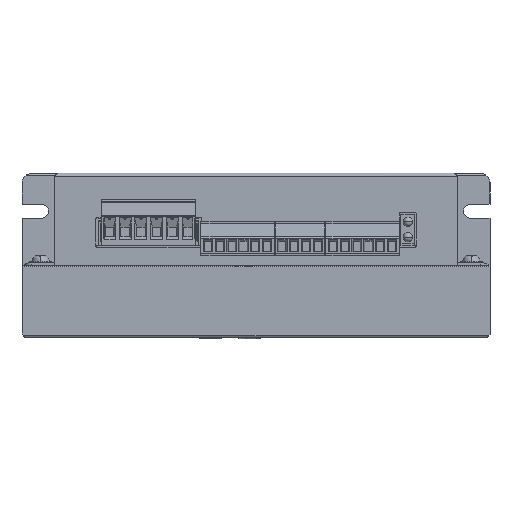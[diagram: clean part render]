
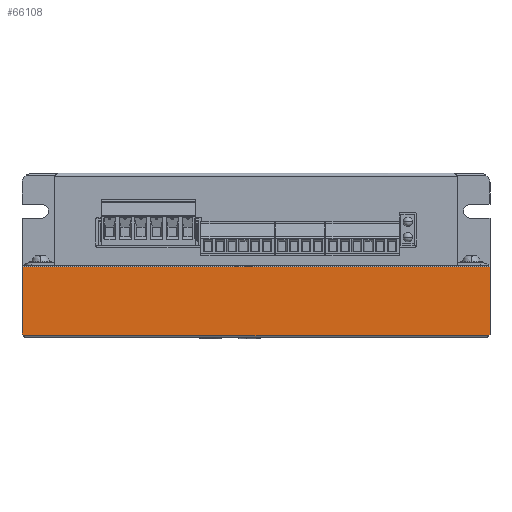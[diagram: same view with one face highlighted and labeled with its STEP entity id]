
A CAD part, top view. The second image highlights one B-rep face of the part: STEP entity #66108.
In plain terms, the highlighted planar face has unit normal (0, 0, 1).
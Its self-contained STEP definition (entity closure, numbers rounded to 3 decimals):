
#15731=DIRECTION('',(-1.,0.,0.));
#15732=VECTOR('',#15731,151.2);
#15733=CARTESIAN_POINT('',(75.6,-0.3,89.3));
#15734=LINE('',#15733,#15732);
#15956=DIRECTION('',(0.,-1.,0.));
#15957=VECTOR('',#15956,21.7);
#15958=CARTESIAN_POINT('',(-75.6,-0.3,89.3));
#15959=LINE('',#15958,#15957);
#16263=DIRECTION('',(0.,-1.,0.));
#16264=VECTOR('',#16263,21.7);
#16265=CARTESIAN_POINT('',(75.6,-0.3,89.3));
#16266=LINE('',#16265,#16264);
#16267=DIRECTION('',(-0.707,-0.707,0.));
#16268=VECTOR('',#16267,0.707);
#16269=CARTESIAN_POINT('',(75.6,-22.,89.3));
#16270=LINE('',#16269,#16268);
#16271=DIRECTION('',(-0.707,0.707,0.));
#16272=VECTOR('',#16271,0.707);
#16273=CARTESIAN_POINT('',(-75.1,-22.5,89.3));
#16274=LINE('',#16273,#16272);
#26274=CARTESIAN_POINT('',(75.1,-22.5,89.3));
#26292=DIRECTION('',(1.,0.,0.));
#26293=VECTOR('',#26292,150.2);
#26294=CARTESIAN_POINT('',(-75.1,-22.5,89.3));
#26295=LINE('',#26294,#26293);
#41741=CARTESIAN_POINT('',(-75.6,-0.3,89.3));
#41743=VERTEX_POINT('',#41741);
#41744=CARTESIAN_POINT('',(-75.6,-22.,89.3));
#41745=VERTEX_POINT('',#41744);
#41888=CARTESIAN_POINT('',(75.6,-0.3,89.3));
#41889=VERTEX_POINT('',#41888);
#42605=CARTESIAN_POINT('',(75.6,-22.,89.3));
#42606=VERTEX_POINT('',#42605);
#44623=VERTEX_POINT('',#26274);
#44625=CARTESIAN_POINT('',(-75.1,-22.5,89.3));
#44626=VERTEX_POINT('',#44625);
#66092=CARTESIAN_POINT('',(-75.6,0.,89.3));
#66093=DIRECTION('',(0.,0.,1.));
#66094=DIRECTION('',(0.,-1.,0.));
#66095=AXIS2_PLACEMENT_3D('',#66092,#66093,#66094);
#66096=PLANE('',#66095);
#66097=ORIENTED_EDGE('',*,*,#65763,.F.);
#66098=ORIENTED_EDGE('',*,*,#65920,.T.);
#66100=ORIENTED_EDGE('',*,*,#66099,.T.);
#66102=ORIENTED_EDGE('',*,*,#66101,.F.);
#66104=ORIENTED_EDGE('',*,*,#66103,.T.);
#66105=ORIENTED_EDGE('',*,*,#65945,.F.);
#66106=EDGE_LOOP('',(#66097,#66098,#66100,#66102,#66104,#66105));
#66107=FACE_OUTER_BOUND('',#66106,.F.);
#66108=ADVANCED_FACE('',(#66107),#66096,.T.);
#65763=EDGE_CURVE('',#41889,#41743,#15734,.T.);
#65920=EDGE_CURVE('',#41889,#42606,#16266,.T.);
#65945=EDGE_CURVE('',#41743,#41745,#15959,.T.);
#66099=EDGE_CURVE('',#42606,#44623,#16270,.T.);
#66101=EDGE_CURVE('',#44626,#44623,#26295,.T.);
#66103=EDGE_CURVE('',#44626,#41745,#16274,.T.);
